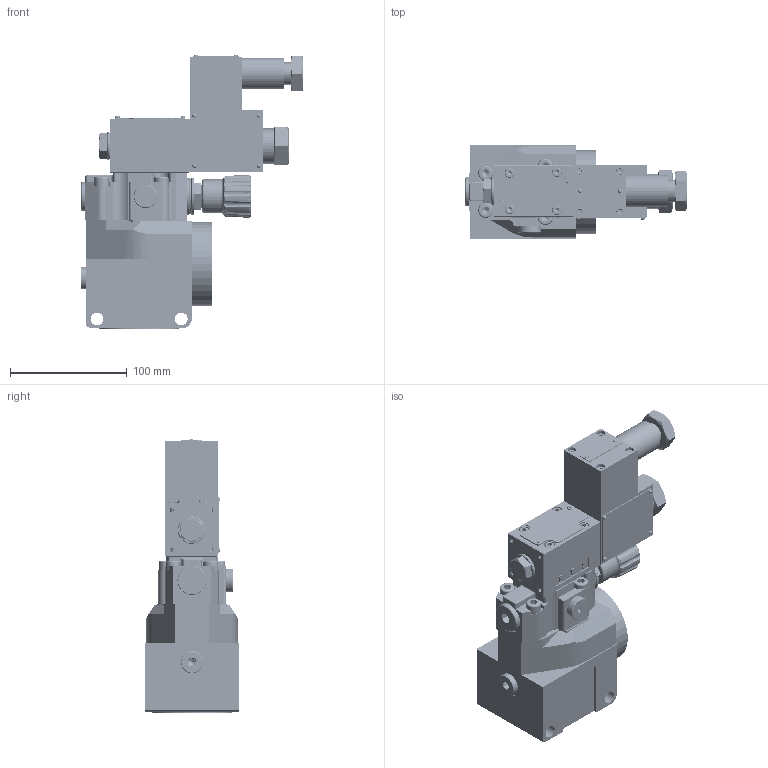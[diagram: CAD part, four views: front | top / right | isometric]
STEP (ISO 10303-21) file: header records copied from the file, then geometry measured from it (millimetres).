
FILE_DESCRIPTION(/* description */ (''),/* implementation_level */ '2;1');
FILE_NAME(/* name */ 'G1-DBW10G-5XJ.stp',/* time_stamp */ '2023-12-21T15:09:46+08:00',/* author */ (''),/* organization */ (''),/* preprocessor_version */ 'ST-DEVELOPER v16.7',/* originating_system */ 'SIEMENS PLM Software NX 12.0',/* authorisation */ '');
FILE_SCHEMA (('AUTOMOTIVE_DESIGN { 1 0 10303 214 3 1 1 1 }'));
Products named in the file (1): G1-DBW10G
Bounding box: 190 x 80 x 235.3 mm (x, y, z)
Volume: 942334.3 mm3; surface area: 264267.8 mm2
Topology: 80 solids, 83 shells, 2274 faces, 5571 edges, 3557 vertices
Faces by surface type: cylinder 945, plane 787, cone 233, bspline 144, torus 109, extrusion 40, sphere 16
Full cylindrical faces by diameter (mm): 1 x2, 1.2 x1, 1.5 x2, 1.8 x4, 2 x6, 3 x9, 3.3 x1, 3.4 x63, 4 x2, 4.2 x10, 4.3 x48, 4.4 x4, 4.5 x1, 4.6 x2, 5 x176, 5.3 x4, 5.4 x1, 5.5 x2, 6 x4, 6.6 x2, 6.7 x48, 6.78 x4, 7 x1, 7.5 x4, 8 x14, 8.28 x5, 8.4 x4, 8.7 x1, 9 x1, 9.4 x4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
Entity records: 228956 total; most frequent: CARTESIAN_POINT 188122, DIRECTION 7366, ORIENTED_EDGE 7170, EDGE_CURVE 3585, AXIS2_PLACEMENT_3D 3030, EDGE_LOOP 2648, VERTEX_POINT 2567, ADVANCED_FACE 1866
